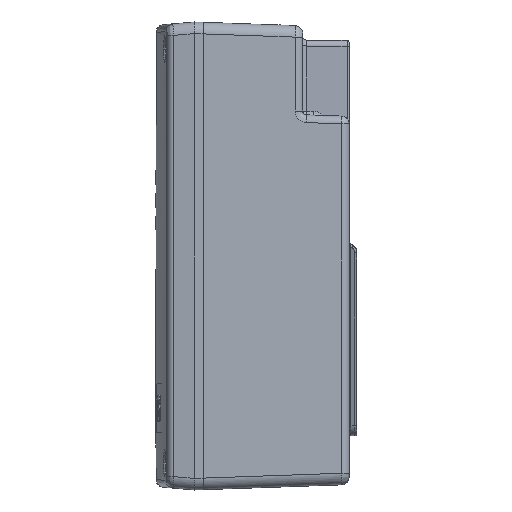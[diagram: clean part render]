
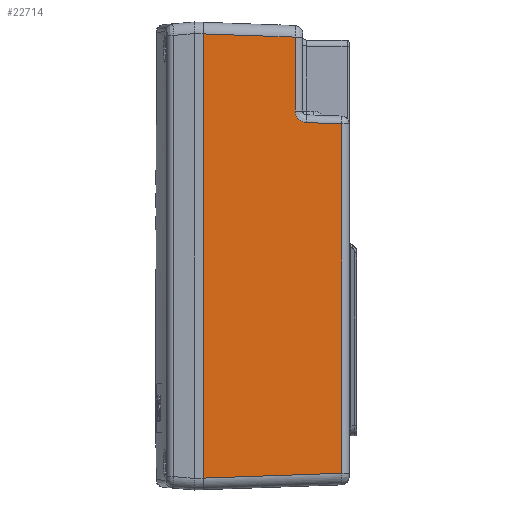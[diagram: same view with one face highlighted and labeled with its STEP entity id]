
A CAD part, left-side view. The second image highlights one B-rep face of the part: STEP entity #22714.
In plain terms, the highlighted planar face has unit normal (-0.999, -0.035, 0).
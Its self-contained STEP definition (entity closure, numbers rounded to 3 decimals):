
#629=DIRECTION('',(0.,0.,-1.));
#630=VECTOR('',#629,19.103);
#631=CARTESIAN_POINT('',(0.91,-26.07,
-3.909));
#632=LINE('',#631,#630);
#633=CARTESIAN_POINT('',(0.91,-26.07,
-23.012));
#634=CARTESIAN_POINT('',(0.91,-26.07,
-23.273));
#635=CARTESIAN_POINT('',(0.913,-26.135,
-23.776));
#636=CARTESIAN_POINT('',(0.923,-26.425,
-24.497));
#637=CARTESIAN_POINT('',(0.939,-26.887,
-25.117));
#638=CARTESIAN_POINT('',(0.96,-27.491,
-25.602));
#639=CARTESIAN_POINT('',(0.985,-28.2,
-25.917));
#640=CARTESIAN_POINT('',(1.002,-28.703,-26.001));
#641=CARTESIAN_POINT('',(1.011,-28.965,-26.01));
#643=DIRECTION('',(0.035,-0.999,-0.035));
#644=VECTOR('',#643,9.116);
#645=CARTESIAN_POINT('',(1.011,-28.965,-26.01));
#646=LINE('',#645,#644);
#647=DIRECTION('',(0.,0.,-1.));
#648=VECTOR('',#647,90.344);
#649=CARTESIAN_POINT('',(1.329,-38.07,-26.328));
#650=LINE('',#649,#648);
#651=DIRECTION('',(0.035,-0.999,0.035));
#652=VECTOR('',#651,35.763);
#653=CARTESIAN_POINT('',(0.082,-2.35,-117.92));
#654=LINE('',#653,#652);
#655=DIRECTION('',(0.035,-0.999,-0.035));
#656=VECTOR('',#655,23.749);
#657=CARTESIAN_POINT('',(0.082,-2.35,-3.08));
#658=LINE('',#657,#656);
#3638=CARTESIAN_POINT('',(0.082,-2.35,-3.08));
#3646=DIRECTION('',(0.,0.,1.));
#3647=VECTOR('',#3646,114.84);
#3648=CARTESIAN_POINT('',(0.082,-2.35,-117.92));
#3649=LINE('',#3648,#3647);
#3656=CARTESIAN_POINT('',(0.082,-2.35,-117.92));
#5691=CARTESIAN_POINT('',(0.91,-26.07,
-3.909));
#18184=CARTESIAN_POINT('',(1.329,-38.07,
-116.672));
#18900=VERTEX_POINT('',#3656);
#18901=VERTEX_POINT('',#3638);
#19197=VERTEX_POINT('',#18184);
#19228=VERTEX_POINT('',#5691);
#19231=CARTESIAN_POINT('',(0.91,-26.07,
-23.012));
#19232=VERTEX_POINT('',#19231);
#19234=VERTEX_POINT('',#641);
#19237=CARTESIAN_POINT('',(1.329,-38.07,
-26.328));
#19238=VERTEX_POINT('',#19237);
#22695=CARTESIAN_POINT('',(0.,0.,-124.227));
#22696=DIRECTION('',(-0.999,-0.035,0.));
#22697=DIRECTION('',(0.,0.,1.));
#22698=AXIS2_PLACEMENT_3D('',#22695,#22696,#22697);
#22699=PLANE('',#22698);
#22701=ORIENTED_EDGE('',*,*,#22700,.T.);
#22703=ORIENTED_EDGE('',*,*,#22702,.T.);
#22704=ORIENTED_EDGE('',*,*,#22650,.T.);
#22705=ORIENTED_EDGE('',*,*,#22689,.T.);
#22707=ORIENTED_EDGE('',*,*,#22706,.F.);
#22709=ORIENTED_EDGE('',*,*,#22708,.T.);
#22711=ORIENTED_EDGE('',*,*,#22710,.T.);
#22712=EDGE_LOOP('',(#22701,#22703,#22704,#22705,#22707,#22709,#22711));
#22713=FACE_OUTER_BOUND('',#22712,.F.);
#22714=ADVANCED_FACE('',(#22713),#22699,.T.);
#642=B_SPLINE_CURVE_WITH_KNOTS('',3,(#633,#634,#635,#636,#637,#638,#639,#640,
#641),.UNSPECIFIED.,.F.,.F.,(4,1,1,1,1,1,4),(0.,0.167,
0.333,0.5,0.667,0.833,1.),
.UNSPECIFIED.);
#22650=EDGE_CURVE('',#19234,#19238,#646,.T.);
#22689=EDGE_CURVE('',#19238,#19197,#650,.T.);
#22700=EDGE_CURVE('',#19228,#19232,#632,.T.);
#22702=EDGE_CURVE('',#19232,#19234,#642,.T.);
#22706=EDGE_CURVE('',#18900,#19197,#654,.T.);
#22708=EDGE_CURVE('',#18900,#18901,#3649,.T.);
#22710=EDGE_CURVE('',#18901,#19228,#658,.T.);
